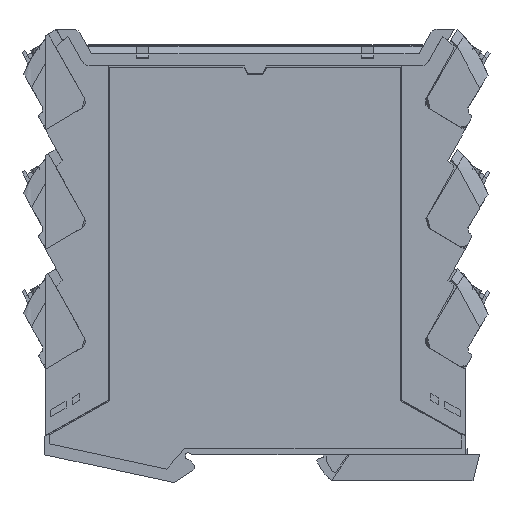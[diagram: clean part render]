
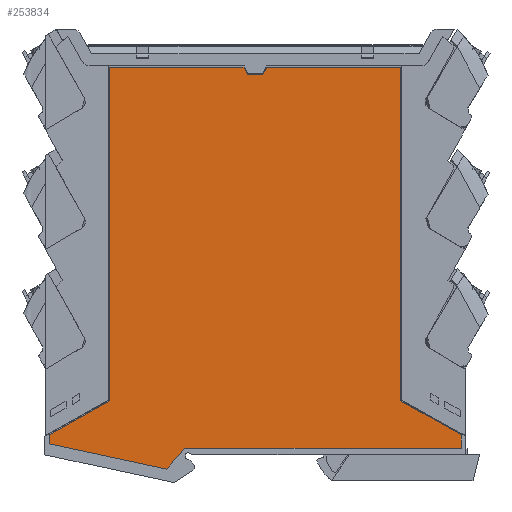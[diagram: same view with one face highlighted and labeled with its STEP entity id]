
A CAD part, left-side view. The second image highlights one B-rep face of the part: STEP entity #253834.
In plain terms, the highlighted planar face has unit normal (-1, 0, 0).
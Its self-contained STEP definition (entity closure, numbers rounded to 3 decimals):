
#2719 = EDGE_CURVE ( 'NONE', #10825, #8958, #173294, .T. ) ;
#4522 = EDGE_CURVE ( 'NONE', #80324, #48884, #139941, .T. ) ;
#7860 = CARTESIAN_POINT ( 'NONE',  ( 0., 56.402, 104.737 ) ) ;
#8958 = VERTEX_POINT ( 'NONE', #23204 ) ;
#10825 = VERTEX_POINT ( 'NONE', #320273 ) ;
#12085 = VERTEX_POINT ( 'NONE', #312236 ) ;
#14300 = DIRECTION ( 'NONE',  ( 0., 0., 1. ) ) ;
#14820 = LINE ( 'NONE', #152929, #96890 ) ;
#23204 = CARTESIAN_POINT ( 'NONE',  ( 0., 74.607, 8.29 ) ) ;
#23491 = EDGE_CURVE ( 'NONE', #8958, #253577, #222813, .T. ) ;
#24714 = EDGE_CURVE ( 'NONE', #150105, #230985, #371236, .T. ) ;
#30624 = ORIENTED_EDGE ( 'NONE', *, *, #2719, .T. ) ;
#33792 = VERTEX_POINT ( 'NONE', #182280 ) ;
#34155 = VECTOR ( 'NONE', #262066, 1000. ) ;
#34365 = CARTESIAN_POINT ( 'NONE',  ( 0., 93.002, 20.784 ) ) ;
#36657 = VERTEX_POINT ( 'NONE', #284304 ) ;
#48884 = VERTEX_POINT ( 'NONE', #308710 ) ;
#57938 = DIRECTION ( 'NONE',  ( 0., 0., 1. ) ) ;
#68539 = EDGE_LOOP ( 'NONE', ( #201855, #153261, #412391, #169455, #177516, #162334, #426476, #166793, #323312, #30624, #189836, #221776, #414967, #106744, #162579, #144302 ) ) ;
#69757 = DIRECTION ( 'NONE',  ( 0., 0., -1. ) ) ;
#73468 = VECTOR ( 'NONE', #132276, 1000. ) ;
#76138 = DIRECTION ( 'NONE',  ( -1., 0., 0. ) ) ;
#77001 = LINE ( 'NONE', #286795, #205722 ) ;
#77135 = CARTESIAN_POINT ( 'NONE',  ( 0., 74.444, 8.476 ) ) ;
#77558 = CARTESIAN_POINT ( 'NONE',  ( 0., 56.402, 7.237 ) ) ;
#80324 = VERTEX_POINT ( 'NONE', #297750 ) ;
#96890 = VECTOR ( 'NONE', #383122, 1000. ) ;
#98550 = CARTESIAN_POINT ( 'NONE',  ( 0., 108.234, 7.237 ) ) ;
#99222 = CARTESIAN_POINT ( 'NONE',  ( 0., 74.607, 8.29 ) ) ;
#105528 = VERTEX_POINT ( 'NONE', #263627 ) ;
#106744 = ORIENTED_EDGE ( 'NONE', *, *, #215194, .T. ) ;
#111313 = VECTOR ( 'NONE', #262632, 1000. ) ;
#112342 = FACE_OUTER_BOUND ( 'NONE', #68539, .T. ) ;
#112618 = VERTEX_POINT ( 'NONE', #396337 ) ;
#117034 = VECTOR ( 'NONE', #234925, 1000. ) ;
#119837 = EDGE_CURVE ( 'NONE', #356608, #36657, #77001, .T. ) ;
#121776 = CARTESIAN_POINT ( 'NONE',  ( 0., 58.347, 102.837 ) ) ;
#132276 = DIRECTION ( 'NONE',  ( 0., -0.66, 0.752 ) ) ;
#139941 = LINE ( 'NONE', #420259, #206725 ) ;
#144302 = ORIENTED_EDGE ( 'NONE', *, *, #24714, .T. ) ;
#150105 = VERTEX_POINT ( 'NONE', #408184 ) ;
#150945 = VECTOR ( 'NONE', #264502, 1000. ) ;
#152929 = CARTESIAN_POINT ( 'NONE',  ( 0., 4.57, 12.253 ) ) ;
#153261 = ORIENTED_EDGE ( 'NONE', *, *, #119837, .T. ) ;
#162334 = ORIENTED_EDGE ( 'NONE', *, *, #180019, .T. ) ;
#162579 = ORIENTED_EDGE ( 'NONE', *, *, #184086, .T. ) ;
#165130 = B_SPLINE_CURVE_WITH_KNOTS ( 'NONE', 3,
 ( #406663, #77135, #308720, #212284 ),
 .UNSPECIFIED., .F., .F.,
 ( 4, 4 ),
 ( 0., 0.001 ),
 .UNSPECIFIED. ) ;
#166274 = LINE ( 'NONE', #34365, #150945 ) ;
#166793 = ORIENTED_EDGE ( 'NONE', *, *, #179080, .T. ) ;
#169455 = ORIENTED_EDGE ( 'NONE', *, *, #400297, .T. ) ;
#169567 = EDGE_CURVE ( 'NONE', #36657, #231763, #292038, .T. ) ;
#172221 = EDGE_CURVE ( 'NONE', #105528, #33792, #166274, .T. ) ;
#173294 = LINE ( 'NONE', #397334, #34155 ) ;
#177091 = EDGE_CURVE ( 'NONE', #228197, #12085, #319185, .T. ) ;
#177516 = ORIENTED_EDGE ( 'NONE', *, *, #4522, .T. ) ;
#179080 = EDGE_CURVE ( 'NONE', #33792, #214284, #279077, .T. ) ;
#180019 = EDGE_CURVE ( 'NONE', #48884, #105528, #303495, .T. ) ;
#182280 = CARTESIAN_POINT ( 'NONE',  ( 0., 108.234, 12.253 ) ) ;
#184086 = EDGE_CURVE ( 'NONE', #112618, #150105, #14820, .T. ) ;
#189323 = DIRECTION ( 'NONE',  ( 0., 0., 1. ) ) ;
#189836 = ORIENTED_EDGE ( 'NONE', *, *, #23491, .T. ) ;
#190151 = EDGE_CURVE ( 'NONE', #230985, #356608, #315220, .T. ) ;
#191411 = DIRECTION ( 'NONE',  ( 0., -1., 0. ) ) ;
#194807 = CARTESIAN_POINT ( 'NONE',  ( 0., 108.234, 9.985 ) ) ;
#201855 = ORIENTED_EDGE ( 'NONE', *, *, #190151, .T. ) ;
#205579 = AXIS2_PLACEMENT_3D ( 'NONE', #77558, #76138, #14300 ) ;
#205722 = VECTOR ( 'NONE', #353085, 1000. ) ;
#206725 = VECTOR ( 'NONE', #221573, 1000. ) ;
#209098 = LINE ( 'NONE', #121776, #111313 ) ;
#212284 = CARTESIAN_POINT ( 'NONE',  ( 0., 74.129, 8.837 ) ) ;
#214284 = VERTEX_POINT ( 'NONE', #284887 ) ;
#215194 = EDGE_CURVE ( 'NONE', #12085, #112618, #361459, .T. ) ;
#221349 = VECTOR ( 'NONE', #191411, 1000. ) ;
#221573 = DIRECTION ( 'NONE',  ( 0., 1., 0. ) ) ;
#221776 = ORIENTED_EDGE ( 'NONE', *, *, #382872, .T. ) ;
#222813 = LINE ( 'NONE', #99222, #73468 ) ;
#225840 = CARTESIAN_POINT ( 'NONE',  ( 0., 56.402, 8.837 ) ) ;
#228197 = VERTEX_POINT ( 'NONE', #230713 ) ;
#230713 = CARTESIAN_POINT ( 'NONE',  ( 0., 74.129, 8.837 ) ) ;
#230985 = VERTEX_POINT ( 'NONE', #358754 ) ;
#231763 = VERTEX_POINT ( 'NONE', #342899 ) ;
#234925 = DIRECTION ( 'NONE',  ( 0., 1., 0. ) ) ;
#253577 = VERTEX_POINT ( 'NONE', #276574 ) ;
#253834 = ADVANCED_FACE ( 'NONE', ( #112342 ), #274650, .T. ) ;
#254124 = CARTESIAN_POINT ( 'NONE',  ( 0., 53.571, 104.737 ) ) ;
#262066 = DIRECTION ( 'NONE',  ( 0., -0.658, 0.753 ) ) ;
#262632 = DIRECTION ( 'NONE',  ( 0., 0.423, 0.906 ) ) ;
#263627 = CARTESIAN_POINT ( 'NONE',  ( 0., 93.002, 20.784 ) ) ;
#264502 = DIRECTION ( 'NONE',  ( 0., 0.872, -0.489 ) ) ;
#267555 = VECTOR ( 'NONE', #276149, 1000. ) ;
#274650 = PLANE ( 'NONE',  #205579 ) ;
#276149 = DIRECTION ( 'NONE',  ( 0., 0., -1. ) ) ;
#276574 = CARTESIAN_POINT ( 'NONE',  ( 0., 74.602, 8.296 ) ) ;
#278640 = VECTOR ( 'NONE', #57938, 1000. ) ;
#279077 = LINE ( 'NONE', #98550, #340674 ) ;
#284304 = CARTESIAN_POINT ( 'NONE',  ( 0., 54.457, 102.837 ) ) ;
#284887 = CARTESIAN_POINT ( 'NONE',  ( 0., 108.234, 9.985 ) ) ;
#286795 = CARTESIAN_POINT ( 'NONE',  ( 0., 53.571, 104.737 ) ) ;
#289651 = LINE ( 'NONE', #194807, #366957 ) ;
#292038 = LINE ( 'NONE', #370255, #117034 ) ;
#297750 = CARTESIAN_POINT ( 'NONE',  ( 0., 59.233, 104.737 ) ) ;
#303495 = LINE ( 'NONE', #408583, #267555 ) ;
#308710 = CARTESIAN_POINT ( 'NONE',  ( 0., 93.002, 104.737 ) ) ;
#308720 = CARTESIAN_POINT ( 'NONE',  ( 0., 74.286, 8.657 ) ) ;
#310323 = VECTOR ( 'NONE', #332999, 1000. ) ;
#312236 = CARTESIAN_POINT ( 'NONE',  ( 0., 4.57, 8.837 ) ) ;
#315220 = LINE ( 'NONE', #7860, #310323 ) ;
#318769 = CARTESIAN_POINT ( 'NONE',  ( 0., 4.57, 7.237 ) ) ;
#319185 = LINE ( 'NONE', #225840, #221349 ) ;
#320273 = CARTESIAN_POINT ( 'NONE',  ( 0., 78.681, 3.626 ) ) ;
#321077 = CARTESIAN_POINT ( 'NONE',  ( 0., 19.802, 7.237 ) ) ;
#323312 = ORIENTED_EDGE ( 'NONE', *, *, #359204, .T. ) ;
#332999 = DIRECTION ( 'NONE',  ( 0., 1., 0. ) ) ;
#340674 = VECTOR ( 'NONE', #69757, 1000. ) ;
#342899 = CARTESIAN_POINT ( 'NONE',  ( 0., 58.347, 102.837 ) ) ;
#353085 = DIRECTION ( 'NONE',  ( 0., 0.423, -0.906 ) ) ;
#353227 = DIRECTION ( 'NONE',  ( 0., -0.978, -0.21 ) ) ;
#356608 = VERTEX_POINT ( 'NONE', #254124 ) ;
#358754 = CARTESIAN_POINT ( 'NONE',  ( 0., 19.802, 104.737 ) ) ;
#359204 = EDGE_CURVE ( 'NONE', #214284, #10825, #289651, .T. ) ;
#361459 = LINE ( 'NONE', #318769, #372283 ) ;
#366957 = VECTOR ( 'NONE', #353227, 1000. ) ;
#370255 = CARTESIAN_POINT ( 'NONE',  ( 0., 56.402, 102.837 ) ) ;
#371236 = LINE ( 'NONE', #321077, #278640 ) ;
#372283 = VECTOR ( 'NONE', #189323, 1000. ) ;
#382872 = EDGE_CURVE ( 'NONE', #253577, #228197, #165130, .T. ) ;
#383122 = DIRECTION ( 'NONE',  ( 0., 0.872, 0.489 ) ) ;
#396337 = CARTESIAN_POINT ( 'NONE',  ( 0., 4.57, 12.253 ) ) ;
#397334 = CARTESIAN_POINT ( 'NONE',  ( 0., 78.681, 3.626 ) ) ;
#400297 = EDGE_CURVE ( 'NONE', #231763, #80324, #209098, .T. ) ;
#406663 = CARTESIAN_POINT ( 'NONE',  ( 0., 74.602, 8.296 ) ) ;
#408184 = CARTESIAN_POINT ( 'NONE',  ( 0., 19.802, 20.784 ) ) ;
#408583 = CARTESIAN_POINT ( 'NONE',  ( 0., 93.002, 7.237 ) ) ;
#412391 = ORIENTED_EDGE ( 'NONE', *, *, #169567, .T. ) ;
#414967 = ORIENTED_EDGE ( 'NONE', *, *, #177091, .T. ) ;
#420259 = CARTESIAN_POINT ( 'NONE',  ( 0., 56.402, 104.737 ) ) ;
#426476 = ORIENTED_EDGE ( 'NONE', *, *, #172221, .T. ) ;
